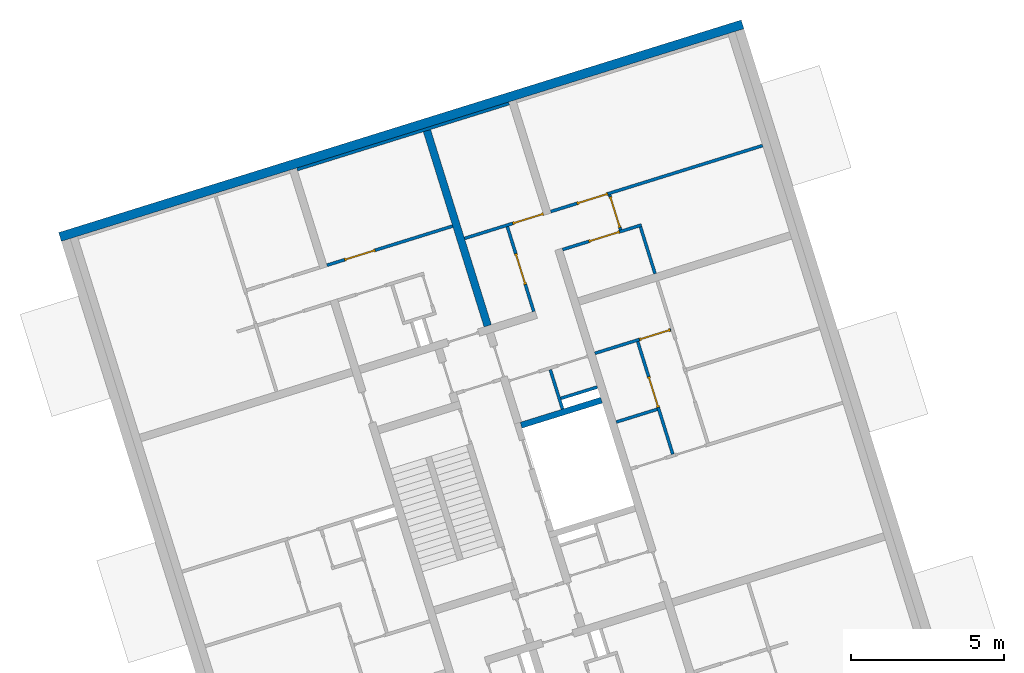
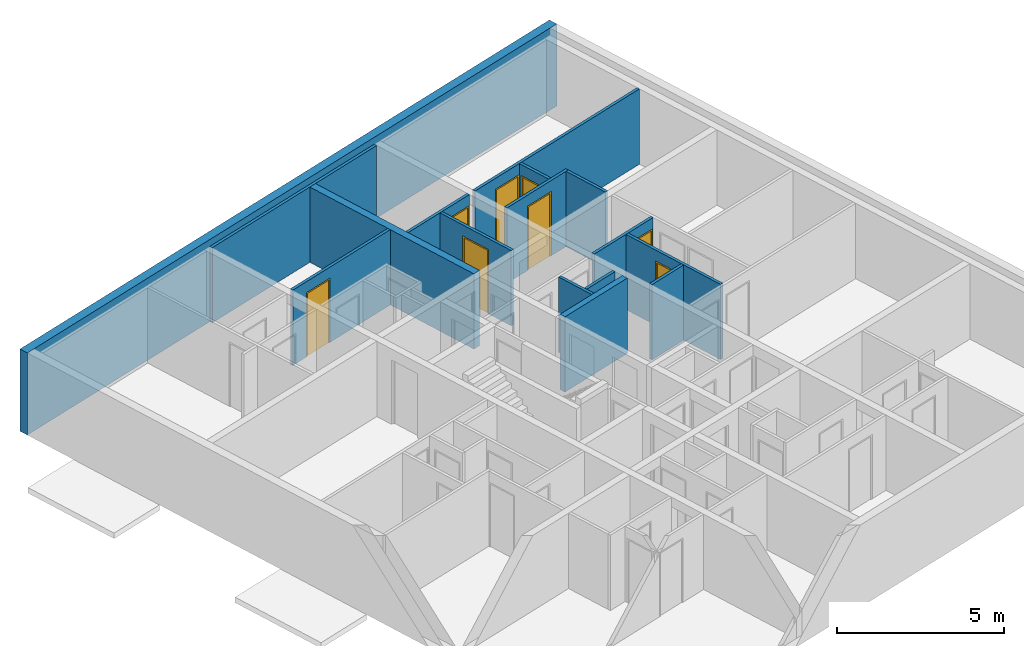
# One storey, part 6 of 9: 16 walls, 8 doors, 9 openings.
"""IFC4 building model written with IfcOpenShell, lengths in metres."""

import ifcopenshell
import ifcopenshell.guid

model = None  # the IFC model being written
_history = None  # IfcOwnerHistory: only IFC2X3 demands one
_inside = {}  # id of a spatial element -> (the spatial element, [elements in it])
_under = {}  # id of a project, library or spatial element -> (it, [spatial elements below it])
_declared = {}  # id of a project -> (the project, [libraries it declares])
_typed = {}  # id of a type object -> (the type object, [elements of that type])
_made_of = {}  # id of a material, layer set ... -> (it, [elements and type objects made of it])


def new_model(schema):
    """Start an empty IFC model of exactly this schema.

    Asked for "IFC4X3", IfcOpenShell would pick the latest addendum, in which some entities
    have other attributes; the version numbers below select the first issue.
    IFC2X3 requires an IfcOwnerHistory on every rooted entity: one is made here for all.
    """
    global model, _history
    if schema == "IFC4X3":
        model = ifcopenshell.file(schema_version=(4, 3, 0, 0))
    else:
        model = ifcopenshell.file(schema=schema)
    _inside.clear()
    _under.clear()
    _declared.clear()
    _typed.clear()
    _made_of.clear()
    _history = None
    if model.schema == "IFC2X3":
        org = make("IfcOrganization", Name="unknown")
        user = make(
            "IfcPersonAndOrganization",
            ThePerson=make("IfcPerson", FamilyName="unknown"),
            TheOrganization=org,
        )
        app = make(
            "IfcApplication",
            ApplicationDeveloper=org,
            Version="unknown",
            ApplicationFullName="unknown",
            ApplicationIdentifier="unknown",
        )
        _history = make(
            "IfcOwnerHistory",
            OwningUser=user,
            OwningApplication=app,
            ChangeAction="ADDED",
            CreationDate=0,
        )
    return model


def make(cls, **values):
    """One entity of the class cls with the attributes given. An attribute that is None is left unset."""
    return model.create_entity(
        cls, **{name: value for name, value in values.items() if value is not None}
    )


def entity(cls, *values):
    """Any entity or typed value of the class cls, its attributes in the order of the schema. None: left unset."""
    e = model.create_entity(cls)
    for i, value in enumerate(values):
        if value is not None:
            e[i] = value
    return e


def rooted(cls, **values):
    """An entity with a GlobalId (a new one), such as an element, a storey or a relation."""
    return make(cls, GlobalId=ifcopenshell.guid.new(), OwnerHistory=_history, **values)


def si_unit(unit_type, name, prefix=None):
    """IfcSIUnit, for example si_unit("LENGTHUNIT", "METRE", prefix="MILLI")."""
    return make("IfcSIUnit", UnitType=unit_type, Prefix=prefix, Name=name)


def converted_unit(unit_type, name, factor, base, dimensions=None, offset=None):
    """IfcConversionBasedUnit, such as the inch: factor (a typed value) times the base unit."""
    return make(
        "IfcConversionBasedUnit"
        if offset is None
        else "IfcConversionBasedUnitWithOffset",
        ConversionOffset=offset,
        Dimensions=None
        if dimensions is None
        else entity("IfcDimensionalExponents", *dimensions),
        UnitType=unit_type,
        Name=name,
        ConversionFactor=make(
            "IfcMeasureWithUnit", ValueComponent=factor, UnitComponent=base
        ),
    )


def assignment(units):
    """IfcUnitAssignment: the units of a project."""
    return None if units is None else make("IfcUnitAssignment", Units=units)


def point(xyz):
    """IfcCartesianPoint."""
    return None if xyz is None else make("IfcCartesianPoint", Coordinates=xyz)


def direction(xyz):
    """IfcDirection."""
    return None if xyz is None else make("IfcDirection", DirectionRatios=xyz)


def frame(location, z_axis=None, x_axis=None):
    """IfcAxis2Placement3D, a coordinate frame: its origin and axes. An axis left out is left unset."""
    return make(
        "IfcAxis2Placement3D",
        Location=point(location),
        Axis=direction(z_axis),
        RefDirection=direction(x_axis),
    )


def origin():
    """The frame at (0, 0, 0) with its axes left unset."""
    return frame((0.0, 0.0, 0.0))


def place(relative_to, where):
    """IfcLocalPlacement: puts the frame where relative to a parent placement (None: the world)."""
    return make(
        "IfcLocalPlacement", PlacementRelTo=relative_to, RelativePlacement=where
    )


def context(
    kind, dimensions, precision=None, world=None, true_north=None, identifier=None
):
    """IfcGeometricRepresentationContext, for example the 3D "Model" context."""
    return make(
        "IfcGeometricRepresentationContext",
        ContextIdentifier=identifier,
        ContextType=kind,
        CoordinateSpaceDimension=dimensions,
        Precision=precision,
        WorldCoordinateSystem=world,
        TrueNorth=true_north,
    )


def subcontext(parent, identifier, kind, view, scale=None):
    """IfcGeometricRepresentationSubContext, for example "Body" below "Model"."""
    return make(
        "IfcGeometricRepresentationSubContext",
        ContextIdentifier=identifier,
        ContextType=kind,
        ParentContext=parent,
        TargetScale=scale,
        TargetView=view,
    )


def project(units=None, contexts=None):
    """IfcProject with its units and contexts."""
    return rooted(
        "IfcProject",
        Name="project",
        RepresentationContexts=contexts,
        UnitsInContext=assignment(units),
    )


def spatial(cls, under=None, at=None, **own):
    """A site, building, storey or space (cls), placed at a placement, below another one or the project."""
    s = rooted(cls, ObjectPlacement=at, **own)
    if under is not None:
        _under.setdefault(under.id(), (under, []))[1].append(s)
    return s


def point_list(points):
    """IfcCartesianPointList2D or 3D."""
    cls = (
        "IfcCartesianPointList2D" if len(points[0]) == 2 else "IfcCartesianPointList3D"
    )
    return make(cls, CoordList=points)


def indexed_curve(points, segments=None, self_intersect=None):
    """IfcIndexedPolyCurve: lines and arcs through numbered points (the first is 1)."""
    return make(
        "IfcIndexedPolyCurve",
        Points=point_list(points),
        Segments=segments,
        SelfIntersect=self_intersect,
    )


def outline(outer, holes=None, kind="AREA"):
    """IfcArbitraryClosedProfileDef: a profile drawn as a closed curve; with holes, ...WithVoids."""
    if holes is None:
        return make("IfcArbitraryClosedProfileDef", ProfileType=kind, OuterCurve=outer)
    return make(
        "IfcArbitraryProfileDefWithVoids",
        ProfileType=kind,
        OuterCurve=outer,
        InnerCurves=holes,
    )


def extrude(swept, where, along, depth):
    """IfcExtrudedAreaSolid: the profile swept, set in the frame where, extruded along a direction by depth."""
    return make(
        "IfcExtrudedAreaSolid",
        SweptArea=swept,
        Position=where,
        ExtrudedDirection=direction(along),
        Depth=depth,
    )


def polygons(points, faces, closed=None, point_numbers=None):
    """IfcPolygonalFaceSet: a face is its outer loop, then its inner loops; points numbered from 1."""
    made = []
    for loops in faces:
        if len(loops) == 1:
            made.append(make("IfcIndexedPolygonalFace", CoordIndex=loops[0]))
        else:
            made.append(
                make(
                    "IfcIndexedPolygonalFaceWithVoids",
                    CoordIndex=loops[0],
                    InnerCoordIndices=loops[1:],
                )
            )
    return make(
        "IfcPolygonalFaceSet",
        Coordinates=point_list(points),
        Closed=closed,
        Faces=made,
        PnIndex=point_numbers,
    )


def shape(context_of_items, identifier, shape_type, items):
    """IfcShapeRepresentation: the items that make up one representation, for example the "Body"."""
    return make(
        "IfcShapeRepresentation",
        ContextOfItems=context_of_items,
        RepresentationIdentifier=identifier,
        RepresentationType=shape_type,
        Items=items,
    )


def source(mapping_origin, context_of_items, identifier, shape_type, items):
    """IfcRepresentationMap: a shape defined once, which mapped items show again and again."""
    return make(
        "IfcRepresentationMap",
        MappingOrigin=mapping_origin,
        MappedRepresentation=shape(context_of_items, identifier, shape_type, items),
    )


def transform(
    local_origin,
    x_axis=None,
    y_axis=None,
    z_axis=None,
    scale=None,
    scale2=None,
    scale3=None,
    uniform=True,
):
    """IfcCartesianTransformationOperator3D, or its non-uniform kind. x_axis, y_axis, z_axis: its Axis1, 2, 3."""
    if uniform:
        return make(
            "IfcCartesianTransformationOperator3D",
            Axis1=direction(x_axis),
            Axis2=direction(y_axis),
            LocalOrigin=point(local_origin),
            Scale=scale,
            Axis3=direction(z_axis),
        )
    return make(
        "IfcCartesianTransformationOperator3DnonUniform",
        Axis1=direction(x_axis),
        Axis2=direction(y_axis),
        LocalOrigin=point(local_origin),
        Scale=scale,
        Axis3=direction(z_axis),
        Scale2=scale2,
        Scale3=scale3,
    )


def mapped(mapping_source, mapping_target):
    """IfcMappedItem: shows the shape of a source again, moved by a transform."""
    return make(
        "IfcMappedItem", MappingSource=mapping_source, MappingTarget=mapping_target
    )


def material(Name=None, Category=None):
    """IfcMaterial."""
    return make("IfcMaterial", Name=Name, Category=Category)


def constituent(of_material, Name=None, Category=None, fraction=None):
    """IfcMaterialConstituent: one of the materials an element consists of."""
    return make(
        "IfcMaterialConstituent",
        Name=Name,
        Material=of_material,
        Fraction=fraction,
        Category=Category,
    )


def constituent_set(constituents=None, Name=None):
    """IfcMaterialConstituentSet."""
    return make(
        "IfcMaterialConstituentSet", Name=Name, MaterialConstituents=constituents
    )


def made_of(thing, what):
    """Note that an element or type object is made of a material, layer set ...; save() writes the relation."""
    if what is not None:
        _made_of.setdefault(what.id(), (what, []))[1].append(thing)
    return thing


def type_object(cls, material=None, **own):
    """A type object (cls), such as IfcWallType, which elements share."""
    return made_of(rooted(cls, **own), material)


def type_shapes(of_type, sources):
    """Give a type object the sources (RepresentationMaps) that its elements show as mapped items."""
    of_type.RepresentationMaps = sources


def element(
    cls,
    number,
    at=None,
    inside=None,
    cuts=None,
    type_object=None,
    material=None,
    context=None,
    identifier="Body",
    shape_type=None,
    held_by="IfcProductDefinitionShape",
    body=None,
    shapes=None,
    **own,
):
    """One element of the class cls, such as IfcWall. Its Tag is "e" and its number.

    at: its placement. inside: the storey or other place that contains it. cuts: it is an
    opening in that element (IfcRelVoidsElement). A single representation is given by context,
    identifier, shape_type and body (its items); several are given by shapes. held_by: the class
    of the entity that holds the representations. save() writes the other relations.
    """
    e = rooted(cls, Tag="e%d" % number, ObjectPlacement=at, **own)
    if body is not None:
        shapes = [shape(context, identifier, shape_type, body)]
    if shapes is not None:
        e.Representation = make(held_by, Representations=shapes)
    if inside is not None:
        _inside.setdefault(inside.id(), (inside, []))[1].append(e)
    if cuts is not None:
        rooted(
            "IfcRelVoidsElement", RelatingBuildingElement=cuts, RelatedOpeningElement=e
        )
    if type_object is not None:
        _typed.setdefault(type_object.id(), (type_object, []))[1].append(e)
    return made_of(e, material)


def fill(opening, filler):
    """IfcRelFillsElement: the door or window that sits in an opening."""
    return rooted(
        "IfcRelFillsElement",
        RelatingOpeningElement=opening,
        RelatedBuildingElement=filler,
    )


def aggregate(whole, parts):
    """IfcRelAggregates: a whole, such as a stair, and the parts it consists of."""
    return rooted("IfcRelAggregates", RelatingObject=whole, RelatedObjects=parts)


def save(model, path):
    """Write the relations noted so far, then the file.

    IfcRelAggregates (storeys below a building ...), IfcRelContainedInSpatialStructure (elements
    in a storey), IfcRelDefinesByType, IfcRelAssociatesMaterial and IfcRelDeclares: one each for
    every whole, place, type object, material and project.
    """
    for whole, parts in _under.values():
        aggregate(whole, parts)
    for where, things in _inside.values():
        rooted(
            "IfcRelContainedInSpatialStructure",
            RelatedElements=things,
            RelatingStructure=where,
        )
    for kind, things in _typed.values():
        rooted("IfcRelDefinesByType", RelatedObjects=things, RelatingType=kind)
    for what, things in _made_of.values():
        rooted("IfcRelAssociatesMaterial", RelatedObjects=things, RelatingMaterial=what)
    for by, libraries in _declared.values():
        rooted("IfcRelDeclares", RelatingContext=by, RelatedDefinitions=libraries)
    model.write(path)


model = new_model("IFC4")

# Units and contexts
model_context = context("Model", 3, precision=1e-05, world=origin(), true_north=direction((6.12323399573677e-17, 1.0)))
body_context = subcontext(model_context, "Body", "Model", "MODEL_VIEW")
ifc_project = project(units=[si_unit("LENGTHUNIT", "METRE"), si_unit("AREAUNIT", "SQUARE_METRE"), converted_unit("PLANEANGLEUNIT", "DEGREE", entity("IfcPlaneAngleMeasure", 0.0174532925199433), si_unit("PLANEANGLEUNIT", "RADIAN"), dimensions=[0, 0, 0, 0, 0, 0, 0]), si_unit("VOLUMEUNIT", "CUBIC_METRE")], contexts=[model_context])

# Site, building, storey
site_placement = place(None, frame((13.1347999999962, 11.9886000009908, 0.0), z_axis=(0.0, 0.0, 1.0), x_axis=(0.954770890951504, 0.297342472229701, 0.0)))
site = spatial("IfcSite", under=ifc_project, at=site_placement, Name="Schiehaven", CompositionType="ELEMENT")
building_placement = place(site_placement, origin())
building = spatial("IfcBuilding", under=site, at=building_placement, Name="VORM huis", CompositionType="ELEMENT")
storey_placement = place(building_placement, frame((0.0, 0.0, 21.9)))
storey = spatial("IfcBuildingStorey", under=building, at=storey_placement, Name="07 zevende verdieping", CompositionType="ELEMENT", Elevation=21.9)

# Walls
ifc_material_1 = material(Name="ntb_ntb_ntb", Category="Miscellaneous")
wall_type_1 = type_object("IfcWallType", Name="Basic Wall:21_WA_gevel_binnenspouwwand 100mm_gen", PredefinedType="STANDARD")
wall_1_placement = place(storey_placement, frame((65.1250000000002, 29.0499999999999, 0.0)))
element("IfcWall", 1, at=wall_1_placement, inside=storey, type_object=wall_type_1, material=ifc_material_1, Name="Binnenspouwblad", ObjectType="Wand", PredefinedType="NOTDEFINED", context=body_context, shape_type="SweptSolid", body=[
    extrude(outline(indexed_curve([(7.24999999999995, 0.0500000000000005), (-1.71284880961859e-16, 0.0500000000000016), (1.71284880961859e-16, -0.0500000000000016), (7.24999999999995, -0.0500000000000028), (7.24999999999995, 0.0500000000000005)], self_intersect=False)), origin(), (0.0, 0.0, 1.0), 2.75),
])
wall_type_2 = type_object("IfcWallType", Name="Basic Wall: 300mm_gen", PredefinedType="STANDARD")
wall_2_placement = place(storey_placement, frame((80.4249999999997, 29.2499999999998, 0.0), z_axis=(0.0, 0.0, 1.0), x_axis=(-1.0, 0.0, 0.0)))
element("IfcWall", 2, at=wall_2_placement, inside=storey, type_object=wall_type_2, material=ifc_material_1, Name="Gevelwand", ObjectType="Wand", PredefinedType="NOTDEFINED", context=body_context, shape_type="SweptSolid", body=[
    extrude(outline(indexed_curve([(23.35, 0.15), (1.7850939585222e-15, 0.150000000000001), (-1.7850939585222e-15, -0.150000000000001), (23.35, -0.150000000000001), (23.35, 0.15)], self_intersect=False)), origin(), (0.0, 0.0, 1.0), 3.0),
])
ifc_material_2 = material(Name="beton_gewapend_prefab-element", Category="Miscellaneous")
wall_type_3 = type_object("IfcWallType", Name="Basic Wall:28_WA_skelet_wand 200mm_gen", PredefinedType="STANDARD")
wall_3_placement = place(storey_placement, frame((69.6249999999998, 18.8999999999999, 0.0)))
element("IfcWall", 3, at=wall_3_placement, inside=storey, type_object=wall_type_3, material=ifc_material_2, Name="Constructieve wand", ObjectType="Wand", PredefinedType="NOTDEFINED", context=body_context, shape_type="SweptSolid", body=[
    extrude(outline(indexed_curve([(2.75000000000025, 0.100000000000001), (-1.53322085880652e-16, 0.100000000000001), (1.53322085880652e-16, -0.100000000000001), (2.75000000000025, -0.100000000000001), (2.75000000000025, 0.100000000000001)], self_intersect=False)), origin(), (0.0, 0.0, 1.0), 2.75),
])
wall_type_4 = type_object("IfcWallType", Name="Basic Wall:22_WA_afbouw_binnenwand 250mm_gen", PredefinedType="STANDARD")
wall_4_placement = place(storey_placement, frame((69.5499999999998, 22.3249999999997, 0.0), z_axis=(0.0, 0.0, 1.0), x_axis=(0.0, 1.0, 0.0)))
element("IfcWall", 4, at=wall_4_placement, inside=storey, type_object=wall_type_4, material=ifc_material_1, Name="Binnenwand", ObjectType="Wand", PredefinedType="NOTDEFINED", context=body_context, shape_type="SweptSolid", body=[
    extrude(outline(indexed_curve([(6.67500000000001, 0.125000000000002), (1.8578365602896e-15, 0.124999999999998), (-1.8578365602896e-15, -0.124999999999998), (6.67500000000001, -0.124999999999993), (6.67500000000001, 0.125000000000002)], self_intersect=False)), origin(), (0.0, 0.0, 1.0), 2.75),
])

# Wall, opening, door
wall_type_5 = type_object("IfcWallType", Name="Basic Wall:22_WA_afbouw_binnenwand 100mm_gen", PredefinedType="STANDARD")
wall_5_placement = place(storey_placement, frame((65.1249999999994, 25.7750000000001, 0.0)))
wall_5 = element("IfcWall", 5, at=wall_5_placement, inside=storey, type_object=wall_type_5, material=ifc_material_1, Name="Binnenwand", ObjectType="Wand", PredefinedType="NOTDEFINED", context=body_context, shape_type="Tessellation", body=[
    polygons([(2.98139225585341e-15, -0.0499999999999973, 0.0), (0.600000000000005, -0.049999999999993, 0.0), (0.600000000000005, -0.049999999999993, 2.34999999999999), (1.65000000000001, -0.0499999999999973, 2.34999999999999), (1.65000000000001, -0.0499999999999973, 0.0), (4.30000000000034, -0.0499999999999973, 0.0), (4.30000000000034, -0.0499999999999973, 2.75), (2.98139225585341e-15, -0.0499999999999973, 2.75), (0.600000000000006, 0.050000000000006, 2.34999999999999), (0.600000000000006, 0.050000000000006, 0.0), (4.07058711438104e-15, 0.0500000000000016, 0.0), (4.07058711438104e-15, 0.0500000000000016, 2.75), (4.30000000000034, 0.0500000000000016, 2.75), (4.30000000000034, 0.0500000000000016, 0.0), (1.65000000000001, 0.0500000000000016, 0.0), (1.65000000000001, 0.0500000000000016, 2.34999999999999)], [[[1, 2, 3, 4, 5, 6, 7, 8]], [[9, 10, 11, 12, 13, 14, 15, 16]], [[11, 10, 2, 1]], [[7, 6, 14, 13]], [[8, 7, 13, 12]], [[1, 8, 12, 11]], [[5, 4, 16, 15]], [[3, 2, 10, 9]], [[4, 3, 9, 16]], [[15, 14, 6, 5]]], closed=True),
])
opening_1_placement = place(wall_5_placement, frame((1.65000000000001, 0.0500000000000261, 0.0)))
opening_1 = element("IfcOpeningElement", 6, at=opening_1_placement, cuts=wall_5, Name="Binnendeur", PredefinedType="OPENING", context=body_context, shape_type="SweptSolid", body=[
    extrude(outline(indexed_curve([(2.34999999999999, 3.02234910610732e-29), (2.34999999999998, 1.05), (0.0, 1.05), (2.16573425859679e-15, 3.02234910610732e-29), (2.34999999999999, 3.02234910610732e-29)], self_intersect=False)), frame((0.0, 0.0, 0.0), z_axis=(0.0, -1.0, 0.0), x_axis=(0.0, 0.0, 1.0)), (0.0, 0.0, 1.0), 0.1),
])
ifc_material_3 = material(Name="PD_a_binnenwandopeningen", Category="Miscellaneous")
ifc_constituent_1 = constituent(ifc_material_3, Name="PD_a_binnenwandopeningen", Category="Miscellaneous")
ifc_material_4 = material(Name="metaal_aluminium_ntb", Category="Miscellaneous")
ifc_constituent_2 = constituent(ifc_material_4, Name="metaal_aluminium_ntb", Category="Miscellaneous")
ifc_constituent_set_1 = constituent_set(constituents=[ifc_constituent_1, ifc_constituent_2])
ifc_constituent_3 = constituent(ifc_material_3, Name="PD_a_binnenwandopeningen", Category="Miscellaneous")
ifc_constituent_4 = constituent(ifc_material_4, Name="Panel", Category="Miscellaneous")
ifc_constituent_set_2 = constituent_set(constituents=[ifc_constituent_3, ifc_constituent_4])
door_type_1 = type_object("IfcDoorType", Name="32_DO_binnendeur enkel:binnendeur", OperationType="REVOLVING", PredefinedType="DOOR", material=ifc_constituent_set_2)
shared_shape_1 = source(origin(), body_context, "Body", "SweptSolid", [
    extrude(outline(indexed_curve([(0.475, -1.16249999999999), (0.525, -1.16249999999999), (0.525, 1.18749999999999), (-0.525, 1.18749999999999), (-0.525, -1.16249999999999), (-0.475, -1.16249999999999), (-0.475, 1.13749999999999), (0.475, 1.13749999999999), (0.475, -1.16249999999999)], self_intersect=False)), frame((0.525000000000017, 0.100000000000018, 1.16249999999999), z_axis=(0.0, -1.0, 0.0), x_axis=(1.0, 0.0, 0.0)), (0.0, 0.0, 1.0), 0.1),
    extrude(outline(indexed_curve([(-0.475, -0.025), (0.475, -0.025), (0.475, 0.025), (-0.475, 0.025), (-0.475, -0.025)], self_intersect=False)), frame((0.525000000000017, 0.0499999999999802, 0.0)), (0.0, 0.0, 1.0), 2.29999999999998),
])
type_shapes(door_type_1, [shared_shape_1])
door_1_placement = place(opening_1_placement, frame((0.0, 0.0, 0.0), z_axis=(0.0, 0.0, 1.0), x_axis=(-1.0, 0.0, 0.0)))
door_1 = element("IfcDoor", 7, at=door_1_placement, inside=storey, type_object=door_type_1, material=ifc_constituent_set_1, Name="Binnendeur", ObjectType="Deur", OperationType="REVOLVING", OverallHeight=2.34999999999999, OverallWidth=1.05, PredefinedType="DOOR", context=body_context, shape_type="MappedRepresentation", body=[
    mapped(shared_shape_1, transform((0.0, 0.0, 0.0), scale=1.0)),
])
fill(opening_1, door_1)

wall_6_placement = place(storey_placement, frame((75.3249999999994, 23.9750000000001, 0.0), z_axis=(0.0, 0.0, 1.0), x_axis=(-1.0, 0.0, 0.0)))
wall_6 = element("IfcWall", 8, at=wall_6_placement, inside=storey, type_object=wall_type_5, material=ifc_material_1, Name="Binnenwand", ObjectType="Wand", PredefinedType="NOTDEFINED", context=body_context, shape_type="Tessellation", body=[
    polygons([(3.61017714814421e-15, -0.0499999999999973, 0.0), (0.650000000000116, -0.0499999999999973, 0.0), (0.750000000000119, -0.0499999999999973, 0.0), (0.750000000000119, -0.0499999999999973, 2.34999999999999), (1.80000000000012, -0.0500000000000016, 2.34999999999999), (1.80000000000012, -0.0500000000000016, 0.0), (2.69999999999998, -0.0500000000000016, 0.0), (2.69999999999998, -0.0500000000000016, 2.75), (0.750000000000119, -0.0499999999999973, 2.75), (0.650000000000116, -0.0499999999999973, 2.75), (3.61017714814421e-15, -0.0499999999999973, 2.75), (0.750000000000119, 0.0500000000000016, 2.34999999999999), (0.750000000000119, 0.0500000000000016, 0.0), (0.100000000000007, 0.0500000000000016, 0.0), (3.48697636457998e-15, 0.0500000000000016, 0.0), (3.48697636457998e-15, 0.0500000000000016, 2.75), (0.100000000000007, 0.0500000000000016, 2.75), (2.69999999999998, 0.0499999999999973, 2.75), (2.69999999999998, 0.0499999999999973, 0.0), (1.80000000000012, 0.0499999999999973, 0.0), (1.80000000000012, 0.0499999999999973, 2.34999999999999)], [[[1, 2, 3, 4, 5, 6, 7, 8, 9, 10, 11]], [[12, 13, 14, 15, 16, 17, 18, 19, 20, 21]], [[15, 14, 13, 3, 2, 1]], [[8, 7, 19, 18]], [[11, 10, 9, 8, 18, 17, 16]], [[6, 5, 21, 20]], [[4, 3, 13, 12]], [[5, 4, 12, 21]], [[1, 11, 16, 15]], [[20, 19, 7, 6]]], closed=True),
])
opening_2_placement = place(wall_6_placement, frame((1.80000000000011, 0.0499999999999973, 0.0)))
opening_2 = element("IfcOpeningElement", 9, at=opening_2_placement, cuts=wall_6, Name="Binnendeur", PredefinedType="OPENING", context=body_context, shape_type="SweptSolid", body=[
    extrude(outline(indexed_curve([(2.34999999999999, 0.0), (2.34999999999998, 1.05), (0.0, 1.05), (2.16573425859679e-15, 0.0), (2.34999999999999, 0.0)], self_intersect=False)), frame((0.0, 0.0, 0.0), z_axis=(0.0, -1.0, 0.0), x_axis=(0.0, 0.0, 1.0)), (0.0, 0.0, 1.0), 0.1),
])
ifc_constituent_5 = constituent(ifc_material_3, Name="PD_a_binnenwandopeningen", Category="Miscellaneous")
ifc_constituent_6 = constituent(ifc_material_4, Name="metaal_aluminium_ntb", Category="Miscellaneous")
ifc_constituent_set_3 = constituent_set(constituents=[ifc_constituent_5, ifc_constituent_6])
door_2_placement = place(opening_2_placement, frame((0.0, 0.0, 0.0), z_axis=(0.0, 0.0, 1.0), x_axis=(-1.0, 0.0, 0.0)))
door_2 = element("IfcDoor", 10, at=door_2_placement, inside=storey, type_object=door_type_1, material=ifc_constituent_set_3, Name="Binnendeur", ObjectType="Deur", OperationType="REVOLVING", OverallHeight=2.34999999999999, OverallWidth=1.05, PredefinedType="DOOR", context=body_context, shape_type="MappedRepresentation", body=[
    mapped(shared_shape_1, transform((0.0, 0.0, 0.0), scale=1.0)),
])
fill(opening_2, door_2)

wall_7_placement = place(storey_placement, frame((79.8749999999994, 25.2750000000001, 0.0), z_axis=(0.0, 0.0, 1.0), x_axis=(-1.0, 0.0, 0.0)))
wall_7 = element("IfcWall", 11, at=wall_7_placement, inside=storey, type_object=wall_type_5, material=ifc_material_1, Name="Binnenwand", ObjectType="Wand", PredefinedType="NOTDEFINED", context=body_context, shape_type="Tessellation", body=[
    polygons([(6.35000000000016, -0.0499999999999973, 2.34999999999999), (6.35000000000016, -0.0499999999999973, 0.0), (7.25000000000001, -0.0499999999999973, 0.0), (7.25000000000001, -0.0499999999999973, 2.75), (-3.45114969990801e-15, -0.0499999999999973, 2.75), (-3.45114969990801e-15, -0.0499999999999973, 0.0), (5.30000000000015, -0.049999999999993, 0.0), (5.30000000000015, -0.049999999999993, 2.34999999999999), (7.25000000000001, 0.0500000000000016, 0.0), (6.35000000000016, 0.0500000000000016, 0.0), (6.35000000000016, 0.0500000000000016, 2.34999999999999), (5.30000000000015, 0.050000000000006, 2.34999999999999), (5.30000000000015, 0.050000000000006, 0.0), (5.20000000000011, 0.050000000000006, 0.0), (-3.57435048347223e-15, 0.0500000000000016, 0.0), (-3.57435048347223e-15, 0.0500000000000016, 2.75), (5.20000000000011, 0.050000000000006, 2.75), (5.30000000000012, 0.050000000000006, 2.75), (7.25000000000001, 0.0500000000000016, 2.75)], [[[1, 2, 3, 4, 5, 6, 7, 8]], [[9, 10, 11, 12, 13, 14, 15, 16, 17, 18, 19]], [[7, 6, 15, 14, 13]], [[4, 3, 9, 19]], [[5, 4, 19, 18, 17, 16]], [[6, 5, 16, 15]], [[13, 12, 8, 7]], [[11, 10, 2, 1]], [[12, 11, 1, 8]], [[3, 2, 10, 9]]], closed=True),
])
opening_3_placement = place(wall_7_placement, frame((5.30000000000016, -0.0500000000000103, 0.0)))
opening_3 = element("IfcOpeningElement", 12, at=opening_3_placement, cuts=wall_7, Name="Binnendeur", PredefinedType="OPENING", context=body_context, shape_type="SweptSolid", body=[
    extrude(outline(indexed_curve([(2.34999999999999, 0.0), (2.34999999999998, 1.05), (0.0, 1.05), (2.16573425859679e-15, 0.0), (2.34999999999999, 0.0)], self_intersect=False)), frame((0.0, 0.0, 0.0), z_axis=(0.0, 1.0, 0.0), x_axis=(0.0, 0.0, 1.0)), (0.0, 0.0, 1.0), 0.1),
])
ifc_constituent_7 = constituent(ifc_material_3, Name="PD_a_binnenwandopeningen", Category="Miscellaneous")
ifc_constituent_8 = constituent(ifc_material_4, Name="metaal_aluminium_ntb", Category="Miscellaneous")
ifc_constituent_set_4 = constituent_set(constituents=[ifc_constituent_7, ifc_constituent_8])
door_3_placement = place(opening_3_placement, origin())
door_3 = element("IfcDoor", 13, at=door_3_placement, inside=storey, type_object=door_type_1, material=ifc_constituent_set_4, Name="Binnendeur", ObjectType="Deur", OperationType="REVOLVING", OverallHeight=2.34999999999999, OverallWidth=1.05, PredefinedType="DOOR", context=body_context, shape_type="MappedRepresentation", body=[
    mapped(shared_shape_1, transform((0.0, 0.0, 0.0), scale=1.0)),
])
fill(opening_3, door_3)

# Wall
wall_8_placement = place(storey_placement, frame((75.2749999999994, 23.9250000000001, 0.0), z_axis=(0.0, 0.0, 1.0), x_axis=(0.0, -1.0, 0.0)))
element("IfcWall", 14, at=wall_8_placement, inside=storey, type_object=wall_type_5, material=ifc_material_1, Name="Binnenwand", ObjectType="Wand", PredefinedType="NOTDEFINED", context=body_context, shape_type="SweptSolid", body=[
    extrude(outline(indexed_curve([(1.6000000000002, 0.0499999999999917), (-9.45814329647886e-17, 0.0499999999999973), (9.45814329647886e-17, -0.0499999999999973), (1.6000000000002, -0.0500000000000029), (1.6000000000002, 0.0499999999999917)], self_intersect=False)), origin(), (0.0, 0.0, 1.0), 2.75),
])

# Wall, openings, door
wall_9_placement = place(storey_placement, frame((74.6249999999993, 24.0250000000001, 0.0), z_axis=(0.0, 0.0, 1.0), x_axis=(0.0, 1.0, 0.0)))
wall_9 = element("IfcWall", 15, at=wall_9_placement, inside=storey, type_object=wall_type_5, material=ifc_material_1, Name="Binnenwand", ObjectType="Wand", PredefinedType="NOTDEFINED", context=body_context, shape_type="Tessellation", body=[
    polygons([(1.2, -0.0500000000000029, 2.75), (4.33146851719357e-15, -0.0500000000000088, 2.75), (4.33146851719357e-15, -0.0500000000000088, 0.0), (0.0799999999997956, -0.0500000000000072, 0.0), (0.0799999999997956, -0.0500000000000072, 2.34999999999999), (1.1299999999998, -0.0500000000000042, 2.34999999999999), (1.1299999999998, -0.0500000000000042, 0.0), (1.2, -0.0500000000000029, 0.0), (0.0, 0.0499999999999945, 2.75), (1.19999999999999, 0.0499999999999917, 2.75), (1.19999999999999, 0.0500000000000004, 2.34999999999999), (1.19999999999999, 0.0499999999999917, 0.0), (1.1299999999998, 0.0499999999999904, 0.0), (1.1299999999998, 0.0500000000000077, 2.34999999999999), (0.0799999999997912, 0.049999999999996, 2.34999999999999), (0.0799999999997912, 0.049999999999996, 0.0), (0.0, 0.0499999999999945, 0.0), (0.0, 0.0499999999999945, 2.34999999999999)], [[[1, 2, 3, 4, 5, 6, 7, 8]], [[9, 10, 11, 12, 13, 14, 15, 16, 17, 18]], [[3, 17, 16, 4]], [[2, 1, 10, 9]], [[1, 8, 12, 11, 10]], [[3, 2, 9, 18, 17]], [[6, 14, 13, 7]], [[14, 6, 5, 15]], [[15, 5, 4, 16]], [[12, 8, 7, 13]]], closed=True),
])
opening_4_placement = place(wall_9_placement, frame((0.0799999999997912, -0.050000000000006, 0.0)))
opening_4 = element("IfcOpeningElement", 16, at=opening_4_placement, cuts=wall_9, Name="Binnendeur", PredefinedType="OPENING", context=body_context, shape_type="SweptSolid", body=[
    extrude(outline(indexed_curve([(2.34999999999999, 1.05), (0.0, 1.05), (0.0, 0.0), (2.34999999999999, 0.0), (2.34999999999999, 1.05)], self_intersect=False)), frame((0.0, 0.0, 0.0), z_axis=(0.0, 1.0, 0.0), x_axis=(0.0, 0.0, 1.0)), (0.0, 0.0, 1.0), 0.1),
])
opening_5_placement = place(wall_9_placement, frame((-24.0250000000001, 74.6249999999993, 0.0), z_axis=(0.0, 0.0, 1.0), x_axis=(0.0, -1.0, 0.0)))
element("IfcOpeningElement", 17, at=opening_5_placement, cuts=wall_9, Name="Binnendeur", PredefinedType="OPENING", context=body_context, shape_type="SweptSolid", body=[
    extrude(outline(indexed_curve([(-1.17499999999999, -0.524999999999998), (1.17499999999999, -0.525000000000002), (1.17499999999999, 0.525000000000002), (-1.17499999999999, 0.525000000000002), (-1.17499999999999, -0.524999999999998)], self_intersect=False)), frame((76.1989999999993, 24.6299999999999, 1.17499999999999), z_axis=(-1.0, 0.0, 0.0), x_axis=(0.0, 0.0, -1.0)), (0.0, 0.0, 1.0), 3.048),
])
ifc_constituent_9 = constituent(ifc_material_3, Name="PD_a_binnenwandopeningen", Category="Miscellaneous")
ifc_constituent_10 = constituent(ifc_material_4, Name="metaal_aluminium_ntb", Category="Miscellaneous")
ifc_constituent_set_5 = constituent_set(constituents=[ifc_constituent_9, ifc_constituent_10])
ifc_constituent_11 = constituent(ifc_material_3, Name="PD_a_binnenwandopeningen", Category="Miscellaneous")
ifc_constituent_12 = constituent(ifc_material_4, Name="Panel", Category="Miscellaneous")
ifc_constituent_set_6 = constituent_set(constituents=[ifc_constituent_11, ifc_constituent_12])
door_type_2 = type_object("IfcDoorType", Name="32_DO_binnendeur enkel:binnendeur", OperationType="REVOLVING", PredefinedType="DOOR", material=ifc_constituent_set_6)
shared_shape_2 = source(origin(), body_context, "Body", "SweptSolid", [
    extrude(outline(indexed_curve([(-1.16249999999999, -0.525000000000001), (1.18749999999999, -0.525), (1.18749999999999, 0.525), (-1.16249999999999, 0.525), (-1.16249999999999, 0.475), (1.13749999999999, 0.475), (1.13749999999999, -0.475), (-1.16249999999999, -0.475), (-1.16249999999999, -0.525000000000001)], self_intersect=False)), frame((0.525000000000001, 0.0, 1.16249999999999), z_axis=(0.0, 1.0, 0.0), x_axis=(0.0, 0.0, 1.0)), (0.0, 0.0, 1.0), 0.1),
    extrude(outline(indexed_curve([(-0.025, -0.475), (0.025, -0.475), (0.025, 0.475), (-0.025, 0.475), (-0.025, -0.475)], self_intersect=False)), frame((0.525000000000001, 0.0499999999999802, 0.0), z_axis=(0.0, 0.0, 1.0), x_axis=(0.0, 1.0, 0.0)), (0.0, 0.0, 1.0), 2.29999999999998),
])
type_shapes(door_type_2, [shared_shape_2])
door_4_placement = place(opening_4_placement, origin())
door_4 = element("IfcDoor", 18, at=door_4_placement, inside=storey, type_object=door_type_2, material=ifc_constituent_set_5, Name="Binnendeur", ObjectType="Deur", OperationType="REVOLVING", OverallHeight=2.34999999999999, OverallWidth=1.05, PredefinedType="DOOR", context=body_context, shape_type="MappedRepresentation", body=[
    mapped(shared_shape_2, transform((0.0, 0.0, 0.0), scale=1.0)),
])
fill(opening_4, door_4)

# Wall, opening, door
wall_10_placement = place(storey_placement, frame((69.6749999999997, 25.2750000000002, 0.0)))
wall_10 = element("IfcWall", 19, at=wall_10_placement, inside=storey, type_object=wall_type_5, material=ifc_material_1, Name="Binnenwand", ObjectType="Wand", PredefinedType="NOTDEFINED", context=body_context, shape_type="Tessellation", body=[
    polygons([(2.69999999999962, -0.0499999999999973, 2.75), (1.49999999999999, -0.0499999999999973, 2.75), (1.39999999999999, -0.0499999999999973, 2.75), (-3.65176134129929e-15, -0.0499999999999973, 2.75), (-3.65176134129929e-15, -0.0499999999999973, 0.0), (1.39999999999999, -0.0499999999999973, 0.0), (1.49999999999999, -0.0499999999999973, 0.0), (1.64999999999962, -0.0499999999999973, 0.0), (1.64999999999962, -0.0499999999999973, 2.34999999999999), (2.69999999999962, -0.0499999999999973, 2.34999999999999), (-3.70058076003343e-15, 0.0500000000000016, 2.75), (2.69999999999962, 0.0500000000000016, 2.75), (2.69999999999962, 0.0500000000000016, 2.34999999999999), (1.64999999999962, 0.0500000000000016, 2.34999999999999), (1.64999999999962, 0.0500000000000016, 0.0), (-3.70058076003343e-15, 0.0500000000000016, 0.0)], [[[1, 2, 3, 4, 5, 6, 7, 8, 9, 10]], [[11, 12, 13, 14, 15, 16]], [[5, 16, 15, 8, 7, 6]], [[12, 1, 10, 13]], [[4, 3, 2, 1, 12, 11]], [[5, 4, 11, 16]], [[14, 9, 8, 15]], [[9, 14, 13, 10]]], closed=True),
])
opening_6_placement = place(wall_10_placement, frame((2.69999999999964, 0.0500000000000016, 0.0)))
opening_6 = element("IfcOpeningElement", 20, at=opening_6_placement, cuts=wall_10, Name="Binnendeur", PredefinedType="OPENING", context=body_context, shape_type="SweptSolid", body=[
    extrude(outline(indexed_curve([(2.34999999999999, 0.0), (2.34999999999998, 1.05), (0.0, 1.05), (2.16573425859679e-15, 0.0), (2.34999999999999, 0.0)], self_intersect=False)), frame((0.0, 0.0, 0.0), z_axis=(0.0, -1.0, 0.0), x_axis=(0.0, 0.0, 1.0)), (0.0, 0.0, 1.0), 0.1),
])
ifc_constituent_13 = constituent(ifc_material_3, Name="PD_a_binnenwandopeningen", Category="Miscellaneous")
ifc_constituent_14 = constituent(ifc_material_4, Name="metaal_aluminium_ntb", Category="Miscellaneous")
ifc_constituent_set_7 = constituent_set(constituents=[ifc_constituent_13, ifc_constituent_14])
door_5_placement = place(opening_6_placement, frame((0.0, 0.0, 0.0), z_axis=(0.0, 0.0, 1.0), x_axis=(-1.0, 0.0, 0.0)))
door_5 = element("IfcDoor", 21, at=door_5_placement, inside=storey, type_object=door_type_1, material=ifc_constituent_set_7, Name="Binnendeur", ObjectType="Deur", OperationType="REVOLVING", OverallHeight=2.34999999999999, OverallWidth=1.05, PredefinedType="DOOR", context=body_context, shape_type="MappedRepresentation", body=[
    mapped(shared_shape_1, transform((0.0, 0.0, 0.0), scale=1.0)),
])
fill(opening_6, door_5)

# Walls
wall_11_placement = place(storey_placement, frame((71.0749999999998, 19.0, 0.0), z_axis=(0.0, 0.0, 1.0), x_axis=(0.0, 1.0, 0.0)))
element("IfcWall", 22, at=wall_11_placement, inside=storey, type_object=wall_type_5, material=ifc_material_1, Name="Binnenwand", ObjectType="Wand", PredefinedType="NOTDEFINED", context=body_context, shape_type="SweptSolid", body=[
    extrude(outline(indexed_curve([(1.34999999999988, 0.0500000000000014), (-1.5153854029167e-16, 0.0499999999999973), (1.5153854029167e-16, -0.0499999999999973), (1.34999999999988, -0.0499999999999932), (1.34999999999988, 0.0500000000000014)], self_intersect=False)), origin(), (0.0, 0.0, 1.0), 2.75),
])
wall_12_placement = place(storey_placement, frame((72.3749999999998, 19.3499999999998, 0.0), z_axis=(0.0, 0.0, 1.0), x_axis=(-1.0, 0.0, 0.0)))
element("IfcWall", 23, at=wall_12_placement, inside=storey, type_object=wall_type_5, material=ifc_material_1, Name="Binnenwand", ObjectType="Wand", PredefinedType="NOTDEFINED", context=body_context, shape_type="SweptSolid", body=[
    extrude(outline(indexed_curve([(1.24999999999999, 0.050000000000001), (-1.10091953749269e-15, 0.0499999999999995), (1.10091953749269e-15, -0.0499999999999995), (1.24999999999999, -0.0499999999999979), (1.24999999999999, 0.050000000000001)], self_intersect=False)), origin(), (0.0, 0.0, 1.0), 2.75),
])

# Wall, opening, door
wall_13_placement = place(storey_placement, frame((71.1249999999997, 22.3249999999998, 0.0), z_axis=(0.0, 0.0, 1.0), x_axis=(0.0, 1.0, 0.0)))
wall_13 = element("IfcWall", 24, at=wall_13_placement, inside=storey, type_object=wall_type_5, material=ifc_material_1, Name="Binnenwand", ObjectType="Wand", PredefinedType="NOTDEFINED", context=body_context, shape_type="Tessellation", body=[
    polygons([(0.0, -0.0499999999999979, 0.0), (0.925000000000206, -0.050000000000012, 0.0), (0.925000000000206, -0.050000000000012, 2.34999999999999), (1.97500000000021, -0.0500000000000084, 2.34999999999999), (1.97500000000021, -0.0500000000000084, 0.0), (2.90000000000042, -0.0500000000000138, 0.0), (2.90000000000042, -0.0500000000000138, 2.75), (0.0, -0.0499999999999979, 2.75), (0.925000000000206, 0.0499999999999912, 2.34999999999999), (0.925000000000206, 0.0499999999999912, 0.0), (0.0, 0.0499999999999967, 0.0), (0.0, 0.0499999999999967, 2.75), (2.90000000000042, 0.0499999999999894, 2.75), (2.90000000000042, 0.0499999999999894, 0.0), (1.97500000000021, 0.0499999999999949, 0.0), (1.97500000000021, 0.0499999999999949, 2.34999999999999)], [[[1, 2, 3, 4, 5, 6, 7, 8]], [[9, 10, 11, 12, 13, 14, 15, 16]], [[11, 10, 2, 1]], [[8, 7, 13, 12]], [[1, 8, 12, 11]], [[5, 4, 16, 15]], [[3, 2, 10, 9]], [[4, 3, 9, 16]], [[7, 6, 14, 13]], [[15, 14, 6, 5]]], closed=True),
])
opening_7_placement = place(wall_13_placement, frame((1.97500000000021, 0.04999999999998, 0.0)))
opening_7 = element("IfcOpeningElement", 25, at=opening_7_placement, cuts=wall_13, Name="Binnendeur", PredefinedType="OPENING", context=body_context, shape_type="SweptSolid", body=[
    extrude(outline(indexed_curve([(2.34999999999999, 0.0), (2.34999999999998, 1.05), (0.0, 1.05), (2.16573425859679e-15, 0.0), (2.34999999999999, 0.0)], self_intersect=False)), frame((0.0, 0.0, 0.0), z_axis=(0.0, -1.0, 0.0), x_axis=(0.0, 0.0, 1.0)), (0.0, 0.0, 1.0), 0.1),
])
ifc_constituent_15 = constituent(ifc_material_3, Name="PD_a_binnenwandopeningen", Category="Miscellaneous")
ifc_constituent_16 = constituent(ifc_material_4, Name="metaal_aluminium_ntb", Category="Miscellaneous")
ifc_constituent_set_8 = constituent_set(constituents=[ifc_constituent_15, ifc_constituent_16])
door_6_placement = place(opening_7_placement, frame((0.0, 0.0, 0.0), z_axis=(0.0, 0.0, 1.0), x_axis=(-1.0, 0.0, 0.0)))
door_6 = element("IfcDoor", 26, at=door_6_placement, inside=storey, type_object=door_type_1, material=ifc_constituent_set_8, Name="Binnendeur", ObjectType="Deur", OperationType="REVOLVING", OverallHeight=2.34999999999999, OverallWidth=1.05, PredefinedType="DOOR", context=body_context, shape_type="MappedRepresentation", body=[
    mapped(shared_shape_1, transform((0.0, 0.0, 0.0), scale=1.0)),
])
fill(opening_7, door_6)

wall_14_placement = place(storey_placement, frame((75.2249999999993, 20.4249999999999, 0.0), z_axis=(0.0, 0.0, 1.0), x_axis=(-1.0, 0.0, 0.0)))
wall_14 = element("IfcWall", 27, at=wall_14_placement, inside=storey, type_object=wall_type_5, material=ifc_material_1, Name="Binnenwand", ObjectType="Wand", PredefinedType="NOTDEFINED", context=body_context, shape_type="Tessellation", body=[
    polygons([(1.07500000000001, -0.0499999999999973, 2.34999999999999), (1.07500000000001, -0.0499999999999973, 0.0), (2.59999999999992, -0.0499999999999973, 0.0), (2.59999999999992, -0.0499999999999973, 2.75), (2.8035561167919e-15, -0.0499999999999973, 2.75), (2.8035561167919e-15, -0.0499999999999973, 0.0), (0.0250000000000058, -0.0499999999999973, 0.0), (0.0250000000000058, -0.0499999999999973, 2.34999999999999), (2.59999999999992, 0.0500000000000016, 0.0), (1.20000000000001, 0.0500000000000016, 0.0), (1.1, 0.0500000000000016, 0.0), (1.07500000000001, 0.0500000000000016, 0.0), (1.07500000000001, 0.0500000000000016, 2.34999999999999), (0.0250000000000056, 0.0500000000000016, 2.34999999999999), (0.0250000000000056, 0.0500000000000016, 0.0), (2.57831440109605e-15, 0.0500000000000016, 0.0), (2.57831440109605e-15, 0.0500000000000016, 2.75), (1.1, 0.0500000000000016, 2.75), (1.20000000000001, 0.0500000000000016, 2.75), (2.59999999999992, 0.0500000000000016, 2.75)], [[[1, 2, 3, 4, 5, 6, 7, 8]], [[9, 10, 11, 12, 13, 14, 15, 16, 17, 18, 19, 20]], [[7, 6, 16, 15]], [[4, 3, 9, 20]], [[5, 4, 20, 19, 18, 17]], [[6, 5, 17, 16]], [[15, 14, 8, 7]], [[13, 12, 2, 1]], [[14, 13, 1, 8]], [[3, 2, 12, 11, 10, 9]]], closed=True),
])
opening_8_placement = place(wall_14_placement, frame((0.025000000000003, -0.0500000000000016, 0.0)))
opening_8 = element("IfcOpeningElement", 28, at=opening_8_placement, cuts=wall_14, Name="Binnendeur", PredefinedType="OPENING", context=body_context, shape_type="SweptSolid", body=[
    extrude(outline(indexed_curve([(2.34999999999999, -1.90552226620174e-32), (2.34999999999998, 1.05), (0.0, 1.05), (2.16573425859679e-15, -1.90552226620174e-32), (2.34999999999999, -1.90552226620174e-32)], self_intersect=False)), frame((0.0, 0.0, 0.0), z_axis=(0.0, 1.0, 0.0), x_axis=(0.0, 0.0, 1.0)), (0.0, 0.0, 1.0), 0.1),
])
ifc_constituent_17 = constituent(ifc_material_3, Name="PD_a_binnenwandopeningen", Category="Miscellaneous")
ifc_constituent_18 = constituent(ifc_material_4, Name="metaal_aluminium_ntb", Category="Miscellaneous")
ifc_constituent_set_9 = constituent_set(constituents=[ifc_constituent_17, ifc_constituent_18])
door_7_placement = place(opening_8_placement, origin())
door_7 = element("IfcDoor", 29, at=door_7_placement, inside=storey, type_object=door_type_1, material=ifc_constituent_set_9, Name="Binnendeur", ObjectType="Deur", OperationType="REVOLVING", OverallHeight=2.34999999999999, OverallWidth=1.05, PredefinedType="DOOR", context=body_context, shape_type="MappedRepresentation", body=[
    mapped(shared_shape_1, transform((0.0, 0.0, 0.0), scale=1.0)),
])
fill(opening_8, door_7)

wall_15_placement = place(storey_placement, frame((74.0749999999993, 20.375, 0.0), z_axis=(0.0, 0.0, 1.0), x_axis=(0.0, -1.0, 0.0)))
wall_15 = element("IfcWall", 30, at=wall_15_placement, inside=storey, type_object=wall_type_5, material=ifc_material_1, Name="Binnenwand", ObjectType="Wand", PredefinedType="NOTDEFINED", context=body_context, shape_type="Tessellation", body=[
    polygons([(2.25000000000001, -0.0500000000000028, 2.34999999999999), (2.25000000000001, -0.0500000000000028, 0.0), (2.35000000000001, -0.0500000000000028, 0.0), (3.85000000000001, -0.0500000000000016, 0.0), (3.85000000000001, -0.0500000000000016, 2.75), (2.35000000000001, -0.0500000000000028, 2.75), (2.25000000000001, -0.0500000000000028, 2.75), (0.0, -0.0500000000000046, 2.75), (0.0, -0.0500000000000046, 0.0), (1.20000000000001, -0.0500000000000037, 0.0), (1.20000000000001, -0.0500000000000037, 2.34999999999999), (3.85000000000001, 0.0500000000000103, 0.0), (2.25000000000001, 0.0500000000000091, 0.0), (2.25000000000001, 0.0500000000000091, 2.34999999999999), (1.20000000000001, 0.0500000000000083, 2.34999999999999), (1.20000000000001, 0.0500000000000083, 0.0), (0.0, 0.0500000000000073, 0.0), (4.33146851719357e-15, 0.0500000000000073, 2.75), (3.85000000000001, 0.0500000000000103, 2.75)], [[[1, 2, 3, 4, 5, 6, 7, 8, 9, 10, 11]], [[12, 13, 14, 15, 16, 17, 18, 19]], [[10, 9, 17, 16]], [[8, 7, 6, 5, 19, 18]], [[9, 8, 18, 17]], [[5, 4, 12, 19]], [[16, 15, 11, 10]], [[14, 13, 2, 1]], [[15, 14, 1, 11]], [[4, 3, 2, 13, 12]]], closed=True),
])
opening_9_placement = place(wall_15_placement, frame((1.20000000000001, -0.0499999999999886, 0.0)))
opening_9 = element("IfcOpeningElement", 31, at=opening_9_placement, cuts=wall_15, Name="Binnendeur", PredefinedType="OPENING", context=body_context, shape_type="SweptSolid", body=[
    extrude(outline(indexed_curve([(2.34999999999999, 1.35358391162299e-15), (2.34999999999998, 1.05), (0.0, 1.05), (2.16573425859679e-15, 1.35358391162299e-15), (2.34999999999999, 1.35358391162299e-15)], self_intersect=False)), frame((0.0, 0.0, 0.0), z_axis=(0.0, 1.0, 0.0), x_axis=(0.0, 0.0, 1.0)), (0.0, 0.0, 1.0), 0.1),
])
ifc_constituent_19 = constituent(ifc_material_3, Name="PD_a_binnenwandopeningen", Category="Miscellaneous")
ifc_constituent_20 = constituent(ifc_material_4, Name="metaal_aluminium_ntb", Category="Miscellaneous")
ifc_constituent_set_10 = constituent_set(constituents=[ifc_constituent_19, ifc_constituent_20])
door_8_placement = place(opening_9_placement, origin())
door_8 = element("IfcDoor", 32, at=door_8_placement, inside=storey, type_object=door_type_1, material=ifc_constituent_set_10, Name="Binnendeur", ObjectType="Deur", OperationType="REVOLVING", OverallHeight=2.34999999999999, OverallWidth=1.05, PredefinedType="DOOR", context=body_context, shape_type="MappedRepresentation", body=[
    mapped(shared_shape_1, transform((0.0, 0.0, 0.0), scale=1.0)),
])
fill(opening_9, door_8)

# Wall
wall_16_placement = place(storey_placement, frame((72.6228357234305, 18.0749999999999, 0.0)))
element("IfcWall", 33, at=wall_16_placement, inside=storey, type_object=wall_type_5, material=ifc_material_1, Name="Binnenwand", ObjectType="Wand", PredefinedType="NOTDEFINED", context=body_context, shape_type="SweptSolid", body=[
    extrude(outline(indexed_curve([(1.40216427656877, 0.0499999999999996), (1.4909356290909e-16, 0.0499999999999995), (-1.4909356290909e-16, -0.0499999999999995), (1.40216427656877, -0.0499999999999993), (1.40216427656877, 0.0499999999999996)], self_intersect=False)), origin(), (0.0, 0.0, 1.0), 2.75),
])

save(model, "model.ifc")
